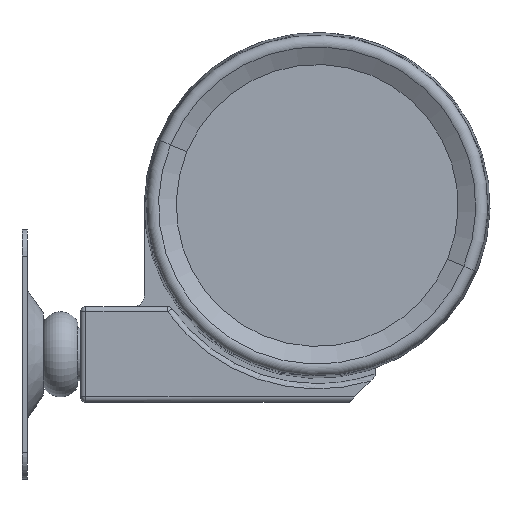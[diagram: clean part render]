
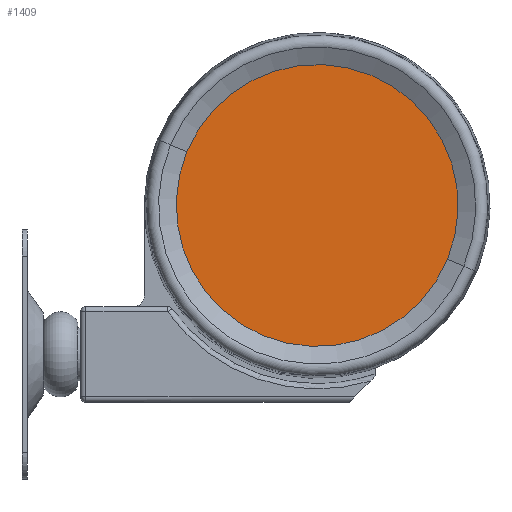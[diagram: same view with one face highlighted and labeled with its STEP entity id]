
A CAD part, left-side view. The second image highlights one B-rep face of the part: STEP entity #1409.
In plain terms, the highlighted planar face has unit normal (-1, 0, 0) as drawn and (1, 0, 0) by its records, which use the part's own axes.
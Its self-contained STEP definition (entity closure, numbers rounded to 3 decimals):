
#111 = EDGE_CURVE ( 'NONE', #2477, #3065, #2824, .T. ) ;
#159 = ORIENTED_EDGE ( 'NONE', *, *, #2790, .F. ) ;
#283 = DIRECTION ( 'NONE',  ( -1., 0., 0. ) ) ;
#573 = CIRCLE ( 'NONE', #2418, 26.5 ) ;
#591 = DIRECTION ( 'NONE',  ( 0., 0., 1. ) ) ;
#631 = DIRECTION ( 'NONE',  ( 0., 0., 1. ) ) ;
#879 = FACE_OUTER_BOUND ( 'NONE', #2998, .T. ) ;
#979 = DIRECTION ( 'NONE',  ( 0., 0., 1. ) ) ;
#1074 = PLANE ( 'NONE',  #1317 ) ;
#1261 = CARTESIAN_POINT ( 'NONE',  ( 24.75, 0., 26.5 ) ) ;
#1317 = AXIS2_PLACEMENT_3D ( 'NONE', #3067, #3141, #631 ) ;
#1409 = ADVANCED_FACE ( 'NONE', ( #879 ), #1074, .F. ) ;
#1842 = CARTESIAN_POINT ( 'NONE',  ( 24.75, 0., 0. ) ) ;
#2101 = CARTESIAN_POINT ( 'NONE',  ( 24.75, 0., -26.5 ) ) ;
#2418 = AXIS2_PLACEMENT_3D ( 'NONE', #1842, #2845, #591 ) ;
#2477 = VERTEX_POINT ( 'NONE', #1261 ) ;
#2501 = CARTESIAN_POINT ( 'NONE',  ( 24.75, 0., 0. ) ) ;
#2512 = AXIS2_PLACEMENT_3D ( 'NONE', #2501, #283, #979 ) ;
#2790 = EDGE_CURVE ( 'NONE', #3065, #2477, #573, .T. ) ;
#2824 = CIRCLE ( 'NONE', #2512, 26.5 ) ;
#2845 = DIRECTION ( 'NONE',  ( -1., 0., 0. ) ) ;
#2949 = ORIENTED_EDGE ( 'NONE', *, *, #111, .F. ) ;
#2998 = EDGE_LOOP ( 'NONE', ( #159, #2949 ) ) ;
#3065 = VERTEX_POINT ( 'NONE', #2101 ) ;
#3067 = CARTESIAN_POINT ( 'NONE',  ( 24.75, 0., 0. ) ) ;
#3141 = DIRECTION ( 'NONE',  ( -1., 0., 0. ) ) ;
